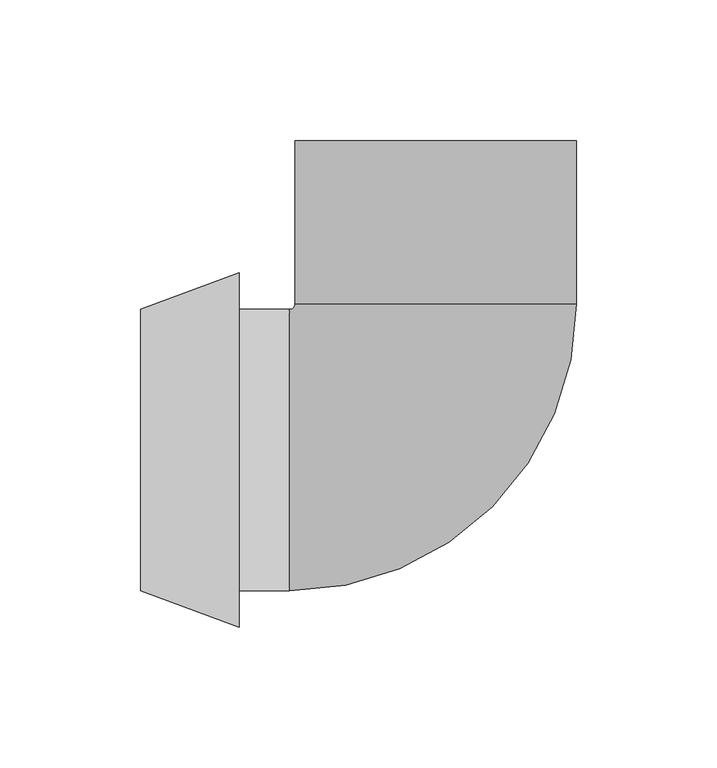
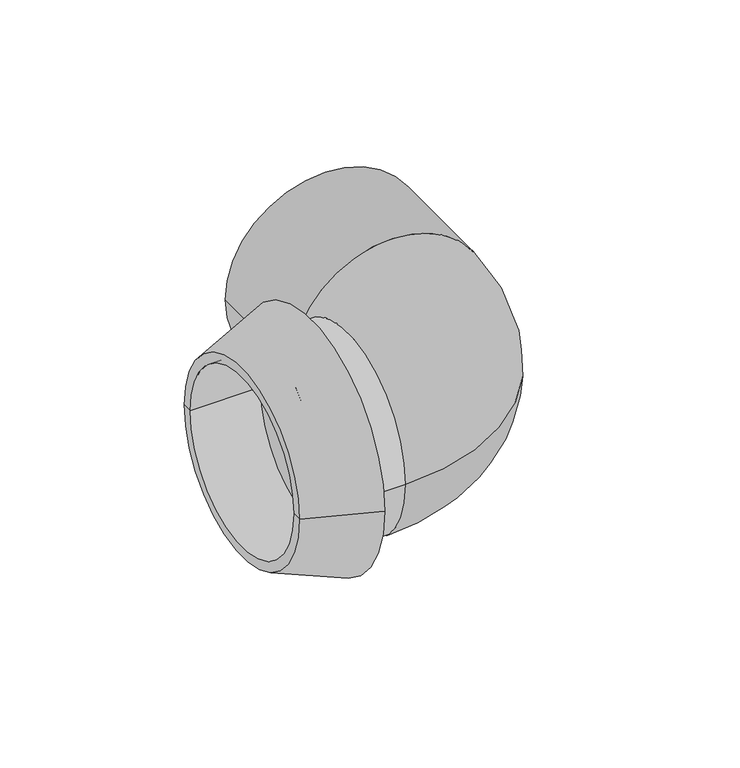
"""IFC4 building model written with IfcOpenShell, lengths in millimetres: duct fitting geometry, NLRS_57_DUF_Easysafe_bocht_M&G : DN100 / 90°."""

from ifc_helpers import new_model, si_unit, point, frame, origin, place, context, project, spatial, polyline, circle_curve, ellipse_curve, trimmed, source, transform, mapped, element, save
from ifc_brep_helpers import plane_surface, cylinder_surface, revolved_surface, advanced_brep


def duct_fitting_80461899(model_context):
    return source(origin(), model_context, "Body", "AdvancedBrep", [
        advanced_brep(
        [(-70.0, 45.0, 0.0), (-70.0, -45.0, 0.0), (-70.0, -63.0, 0.0), (-70.0, 63.0, 0.0), (-105.0, -50.0, 0.0), (-105.0, 50.0, 0.0), (-105.0, 45.0, 0.0), (-105.0, -45.0, 0.0)],
        [
            (0, 1, circle_curve(frame((-70.0, 0.0, 0.0), z_axis=(-1.0, 0.0, 0.0), x_axis=(0.0, -1.0, 0.0)), 45.0)),
            (1, 2),
            (2, 3, circle_curve(frame((-70.0, 0.0, 0.0), z_axis=(1.0, 0.0, 0.0), x_axis=(0.0, -1.0, 0.0)), 63.0)),
            (3, 0),
            (1, 0, circle_curve(frame((-70.0, 0.0, 0.0), z_axis=(-1.0, 0.0, 0.0), x_axis=(0.0, -1.0, 0.0)), 45.0)),
            (3, 2, circle_curve(frame((-70.0, 0.0, 0.0), z_axis=(1.0, 0.0, 0.0), x_axis=(0.0, -1.0, 0.0)), 63.0)),
            (2, 4, circle_curve(frame((-18.1667152, 130.1665359, 0.0), z_axis=(0.0, 0.0, -1.0), x_axis=(0.0, 1.0, 0.0)), 200.0)),
            (4, 5, circle_curve(frame((-105.0, 0.0, 0.0), z_axis=(1.0, 0.0, 0.0), x_axis=(0.0, -1.0, 0.0)), 50.0)),
            (5, 3, circle_curve(frame((-18.1667152, -130.1665359, 0.0), z_axis=(0.0, 0.0, -1.0), x_axis=(0.0, -1.0, 0.0)), 200.0)),
            (5, 4, circle_curve(frame((-105.0, 0.0, 0.0), z_axis=(1.0, 0.0, 0.0), x_axis=(0.0, -1.0, 0.0)), 50.0)),
            (6, 7, circle_curve(frame((-105.0, 0.0, 0.0), z_axis=(-1.0, 0.0, 0.0), x_axis=(0.0, -1.0, 0.0)), 45.0)),
            (7, 1),
            (0, 6),
            (7, 6, circle_curve(frame((-105.0, 0.0, 0.0), z_axis=(-1.0, 0.0, 0.0), x_axis=(0.0, -1.0, 0.0)), 45.0)),
            (4, 7),
            (6, 5),
        ],
        [
            plane_surface(frame((-70.0, 0.0, 0.0), z_axis=(1.0, 0.0, 0.0), x_axis=(0.0, -1.0, 0.0))),
            revolved_surface(trimmed(ellipse_curve(frame((-18.1667152, 130.1665359, 0.0), z_axis=(0.0, 0.0, 1.0), x_axis=(0.0, 1.0, 0.0)), 200.0, 200.0), [point((-105.0, -50.0, 0.0))], [point((-70.0, -63.0, 0.0))], True, "CARTESIAN"), (-66.7041329, 0.0, 0.0), (1.0, 0.0, 0.0)),
            revolved_surface(polyline([(-70.0, -45.0, 0.0), (-105.0, -45.0, 0.0)]), (-66.7041329, 0.0, 0.0), (1.0, 0.0, 0.0)),
            plane_surface(frame((-105.0, 0.0, 0.0), z_axis=(-1.0, 0.0, 0.0), x_axis=(0.0, -1.0, 0.0))),
        ],
        [
            (0, [[1, 2, 3, 4]]),
            (0, [[5, -4, 6, -2]]),
            (1, [[-3, 7, 8, 9]]),
            (1, [[-6, -9, 10, -7]]),
            (2, [[11, 12, -1, 13]]),
            (2, [[14, -13, -5, -12]]),
            (3, [[-8, 15, -11, 16]]),
            (3, [[-10, -16, -14, -15]]),
        ],
    ),
        advanced_brep(
        [(-50.0, 110.0, 0.0), (50.0, 110.0, 0.0), (-50.0, 52.0, 0.0), (50.0, 52.0, 0.0), (-52.0, -50.0, 0.0), (-52.0, 50.0, 0.0), (-70.0, 50.0, 0.0), (-70.0, -50.0, 0.0)],
        [
            (0, 1, circle_curve(frame((0.0, 110.0, 0.0), z_axis=(0.0, 1.0, 0.0), x_axis=(1.0, 0.0, 0.0)), 50.0)),
            (1, 0, circle_curve(frame((0.0, 110.0, 0.0), z_axis=(0.0, 1.0, 0.0), x_axis=(1.0, 0.0, 0.0)), 50.0)),
            (0, 2),
            (2, 3, circle_curve(frame((0.0, 52.0, 0.0), z_axis=(0.0, 1.0, 0.0), x_axis=(1.0, 0.0, 0.0)), 50.0)),
            (3, 1),
            (3, 2, circle_curve(frame((0.0, 52.0, 0.0), z_axis=(0.0, 1.0, 0.0), x_axis=(1.0, 0.0, 0.0)), 50.0)),
            (4, 3, circle_curve(frame((-52.0, 52.0, 0.0), z_axis=(0.0, 0.0, 1.0), x_axis=(1.0, 0.0, 0.0)), 102.0)),
            (2, 5, circle_curve(frame((-52.0, 52.0, 0.0), z_axis=(0.0, 0.0, -1.0), x_axis=(1.0, 0.0, 0.0)), 2.0)),
            (5, 4, circle_curve(frame((-52.0, 0.0, 0.0), z_axis=(1.0, 0.0, 0.0), x_axis=(0.0, -1.0, 0.0)), 50.0)),
            (4, 5, circle_curve(frame((-52.0, 0.0, 0.0), z_axis=(1.0, 0.0, 0.0), x_axis=(0.0, -1.0, 0.0)), 50.0)),
            (6, 7, circle_curve(frame((-70.0, 0.0, 0.0), z_axis=(-1.0, 0.0, 0.0), x_axis=(0.0, -1.0, 0.0)), 50.0)),
            (7, 6, circle_curve(frame((-70.0, 0.0, 0.0), z_axis=(-1.0, 0.0, 0.0), x_axis=(0.0, -1.0, 0.0)), 50.0)),
            (5, 6),
            (7, 4),
        ],
        [
            plane_surface(frame((0.0, 110.0, 0.0), z_axis=(0.0, 1.0, 0.0), x_axis=(0.0, 0.0, 1.0))),
            cylinder_surface(frame((0.0, 110.0, 0.0), z_axis=(0.0, 1.0, 0.0), x_axis=(1.0, 0.0, 0.0)), 50.0),
            revolved_surface(trimmed(ellipse_curve(frame((0.0, 52.0, 0.0), z_axis=(0.0, 1.0, 0.0), x_axis=(1.0, 0.0, 0.0)), 50.0, 50.0), [point((-50.0, 52.0, 0.0))], [point((50.0, 52.0, 0.0))], True, "CARTESIAN"), (-52.0, 52.0, 0.0), (0.0, 0.0, -1.0)),
            revolved_surface(trimmed(ellipse_curve(frame((0.0, 52.0, 0.0), z_axis=(0.0, 1.0, 0.0), x_axis=(1.0, 0.0, 0.0)), 50.0, 50.0), [point((50.0, 52.0, 0.0))], [point((-50.0, 52.0, 0.0))], True, "CARTESIAN"), (-52.0, 52.0, 0.0), (0.0, 0.0, -1.0)),
            plane_surface(frame((-70.0, 0.0, 0.0), z_axis=(-1.0, 0.0, 0.0), x_axis=(0.0, 0.0, 1.0))),
            cylinder_surface(frame((-52.0, 0.0, 0.0), z_axis=(1.0, 0.0, 0.0), x_axis=(0.0, -1.0, 0.0)), 50.0),
        ],
        [
            (0, [[1, 2]]),
            (1, [[-1, 3, 4, 5]]),
            (1, [[-2, -5, 6, -3]]),
            (2, [[7, -4, 8, 9]]),
            (3, [[-8, -6, -7, 10]]),
            (4, [[11, 12]]),
            (5, [[-9, 13, -12, 14]]),
            (5, [[-10, -14, -11, -13]]),
        ],
    ),
    ])


if __name__ == "__main__":
    model = new_model("IFC4")
    model_context = context("Model", 3, world=origin())
    ifc_project = project(units=[si_unit("LENGTHUNIT", "METRE", prefix="MILLI")], contexts=[model_context])
    site = spatial("IfcSite", under=ifc_project)
    building = spatial("IfcBuilding", under=site)
    placement = place(None, origin())
    duct_fitting_shape = duct_fitting_80461899(model_context)
    element("IfcDuctFitting", 1, ObjectType="NLRS_57_DUF_Easysafe_bocht_M&G : DN100 / 90°", at=placement, inside=building, context=model_context, shape_type="MappedRepresentation", body=[
        mapped(duct_fitting_shape, transform((0.0, 0.0, 0.0), x_axis=(1.0, 0.0, 0.0), y_axis=(0.0, 1.0, 0.0), z_axis=(0.0, 0.0, 1.0))),
    ])
    save(model, "model.ifc")
